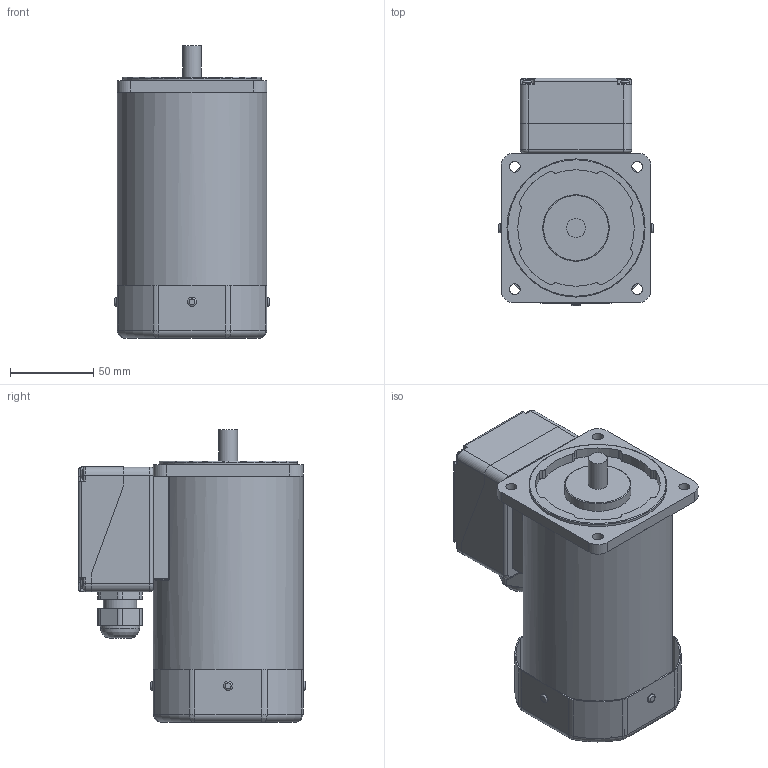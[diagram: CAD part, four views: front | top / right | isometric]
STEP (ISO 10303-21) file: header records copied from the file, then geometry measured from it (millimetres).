
FILE_DESCRIPTION((''),'2;1');
FILE_NAME('E:\2공장-도면\3D\표준형 3D(민규)\step file\K9IP120Fㅁ-C50-T5.stp','2014-11-13T10:04:17',('AHN'),(''),'Autodesk Inventor 2012','Autodesk Inventor 2012','');
FILE_SCHEMA(('CONFIG_CONTROL_DESIGN'));
Length unit declared in the file: millimetre
Products named in the file (5): K9IP120Fㅁ-C50-T5; K9IP180Fㅁ; COVER(a); 케이블; BASE(a)
Assembly tree (4 placements, depth 2):
  K9IP120Fㅁ-C50-T5
    K9IP180Fㅁ
    COVER(a)
    케이블
    BASE(a)
Bounding box: 93 x 136.5 x 176 mm (x, y, z)
Volume: 994571.7 mm3; surface area: 132658.9 mm2
Topology: 4 solids, 10 shells, 695 faces, 1712 edges, 1039 vertices
Faces by surface type: cylinder 315, plane 183, torus 138, bspline 31, sphere 20, cone 8
Full cylindrical faces by diameter (mm): 3.242 x4, 3.5 x4, 4.5 x4, 5.5 x8, 6.5 x4, 8 x4, 11.3 x1, 20 x1, 21 x1, 23.5 x1, 40 x1, 83 x1, 90 x1
Entity records: 22072 total; most frequent: CARTESIAN_POINT 5504, DIRECTION 3700, ORIENTED_EDGE 3256, EDGE_CURVE 1628, AXIS2_PLACEMENT_3D 1500, VERTEX_POINT 1021, CIRCLE 819, EDGE_LOOP 815
